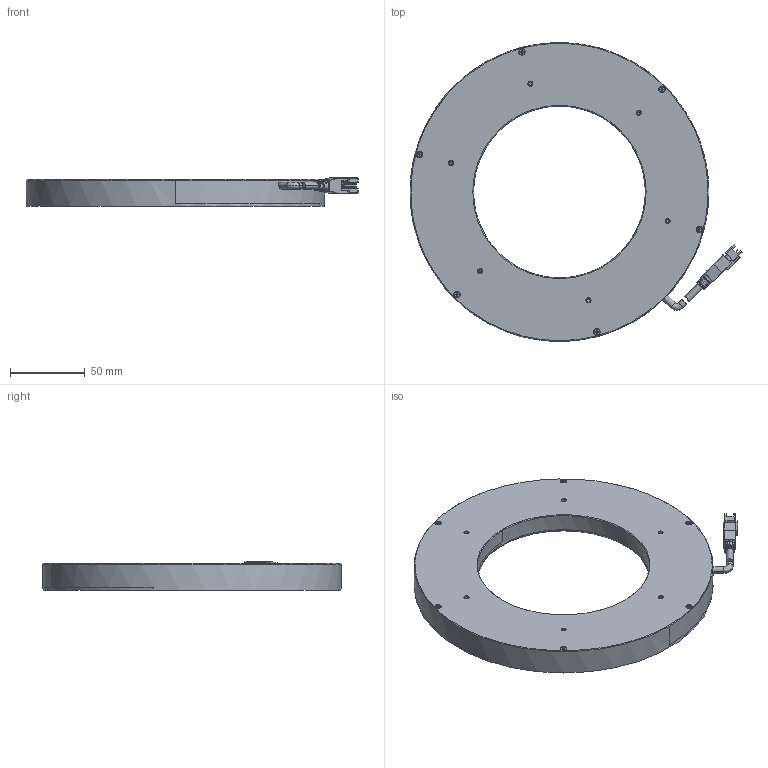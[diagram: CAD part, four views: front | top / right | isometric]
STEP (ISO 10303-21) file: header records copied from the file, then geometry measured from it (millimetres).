
FILE_DESCRIPTION((''),'2;1');
FILE_NAME('200-30','2024-01-30T14:32:19',('qiaoxuan5'),(''),'CREO PARAMETRIC BY PTC INC, 2020044','CREO PARAMETRIC BY PTC INC, 2020044','');
FILE_SCHEMA(('CONFIG_CONTROL_DESIGN'));
Length unit declared in the file: millimetre
Products named in the file (1): 200-30
Bounding box: 222.14 x 200 x 19 mm (x, y, z)
Volume: 366269.6 mm3; surface area: 73985 mm2
Topology: 2 solids, 56 shells, 977 faces, 2335 edges, 1436 vertices
Faces by surface type: plane 504, cylinder 288, cone 130, torus 38, sphere 8, bspline 8, extrusion 1
Entity records: 31554 total; most frequent: CARTESIAN_POINT 9021, DIRECTION 4779, ORIENTED_EDGE 4462, EDGE_CURVE 2291, AXIS2_PLACEMENT_3D 1733, VERTEX_POINT 1436, VECTOR 1313, LINE 1312
